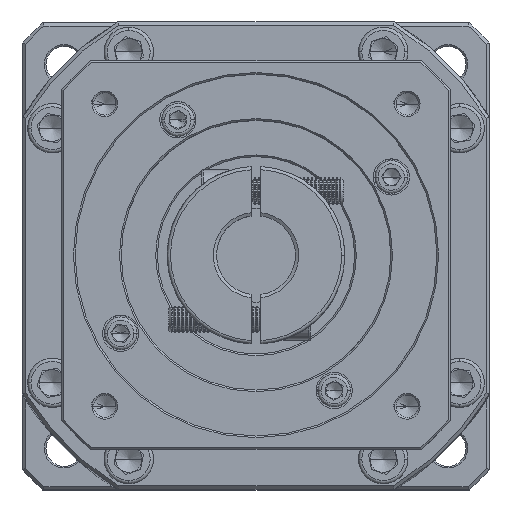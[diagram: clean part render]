
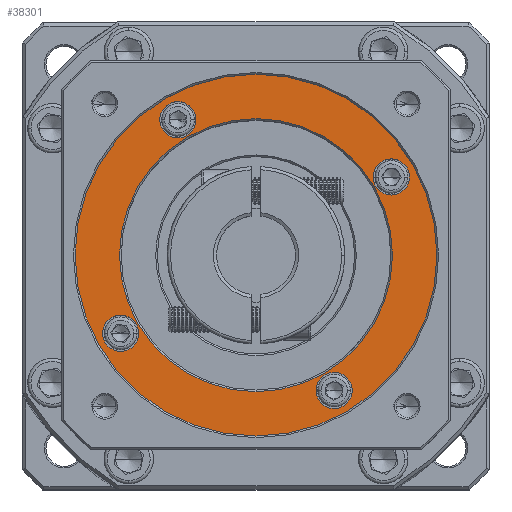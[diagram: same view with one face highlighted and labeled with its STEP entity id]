
A CAD part, top view. The second image highlights one B-rep face of the part: STEP entity #38301.
In plain terms, the highlighted planar face has unit normal (0, 0, 1).
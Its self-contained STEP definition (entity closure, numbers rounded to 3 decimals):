
#2128 = DIRECTION ( 'NONE',  ( 1., 0., 0. ) ) ;
#2868 = ORIENTED_EDGE ( 'NONE', *, *, #24350, .T. ) ;
#3402 = EDGE_CURVE ( 'NONE', #51906, #61925, #73611, .T. ) ;
#4488 = VERTEX_POINT ( 'NONE', #51540 ) ;
#4510 = CARTESIAN_POINT ( 'NONE',  ( -77.378, 45.355, -18.552 ) ) ;
#7046 = DIRECTION ( 'NONE',  ( 0., 0., -1. ) ) ;
#8082 = VERTEX_POINT ( 'NONE', #28455 ) ;
#9469 = CARTESIAN_POINT ( 'NONE',  ( -119.378, 127.627, -18.552 ) ) ;
#10491 = ORIENTED_EDGE ( 'NONE', *, *, #36805, .T. ) ;
#10521 = EDGE_LOOP ( 'NONE', ( #51077, #16425 ) ) ;
#12915 = CARTESIAN_POINT ( 'NONE',  ( -101.128, 86.491, -18.552 ) ) ;
#13134 = CIRCLE ( 'NONE', #54324, 5.5 ) ;
#13369 = DIRECTION ( 'NONE',  ( 0., -1., 0. ) ) ;
#15859 = CARTESIAN_POINT ( 'NONE',  ( -101.128, 44.991, -18.552 ) ) ;
#16425 = ORIENTED_EDGE ( 'NONE', *, *, #136670, .T. ) ;
#18628 = EDGE_LOOP ( 'NONE', ( #74055, #64421 ) ) ;
#18899 = DIRECTION ( 'NONE',  ( 1., 0., 0. ) ) ;
#19828 = CARTESIAN_POINT ( 'NONE',  ( -65.492, 110.241, -18.552 ) ) ;
#21457 = FACE_OUTER_BOUND ( 'NONE', #18628, .T. ) ;
#22613 = VERTEX_POINT ( 'NONE', #136711 ) ;
#22727 = EDGE_CURVE ( 'NONE', #113800, #96569, #123893, .T. ) ;
#22930 = ORIENTED_EDGE ( 'NONE', *, *, #22727, .T. ) ;
#23445 = CARTESIAN_POINT ( 'NONE',  ( -124.878, 127.627, -18.552 ) ) ;
#23494 = DIRECTION ( 'NONE',  ( 1., 0., 0. ) ) ;
#24350 = EDGE_CURVE ( 'NONE', #61925, #51906, #39424, .T. ) ;
#25119 = CARTESIAN_POINT ( 'NONE',  ( -101.128, 127.991, -18.552 ) ) ;
#26621 = CIRCLE ( 'NONE', #130605, 55. ) ;
#28026 = CARTESIAN_POINT ( 'NONE',  ( -101.128, 86.491, -18.552 ) ) ;
#28455 = CARTESIAN_POINT ( 'NONE',  ( -46.128, 86.491, -18.552 ) ) ;
#28847 = DIRECTION ( 'NONE',  ( 1., 0., 0. ) ) ;
#30738 = ORIENTED_EDGE ( 'NONE', *, *, #35238, .T. ) ;
#31418 = CIRCLE ( 'NONE', #40646, 5.5 ) ;
#31926 = CARTESIAN_POINT ( 'NONE',  ( -142.264, 62.741, -18.552 ) ) ;
#32660 = AXIS2_PLACEMENT_3D ( 'NONE', #108533, #44342, #120722 ) ;
#35238 = EDGE_CURVE ( 'NONE', #96569, #113800, #123601, .T. ) ;
#36625 = DIRECTION ( 'NONE',  ( 1., 0., 0. ) ) ;
#36765 = AXIS2_PLACEMENT_3D ( 'NONE', #73709, #128069, #18899 ) ;
#36805 = EDGE_CURVE ( 'NONE', #55093, #40737, #112615, .T. ) ;
#38249 = FACE_BOUND ( 'NONE', #94461, .T. ) ;
#38301 = ADVANCED_FACE ( 'NONE', ( #21457, #110377, #132148, #43251, #38249, #122119 ), #116278, .T. ) ;
#39424 = CIRCLE ( 'NONE', #67441, 5.5 ) ;
#39700 = VERTEX_POINT ( 'NONE', #71671 ) ;
#40646 = AXIS2_PLACEMENT_3D ( 'NONE', #133606, #7046, #71258 ) ;
#40737 = VERTEX_POINT ( 'NONE', #138322 ) ;
#42024 = AXIS2_PLACEMENT_3D ( 'NONE', #4510, #90210, #59290 ) ;
#43120 = CARTESIAN_POINT ( 'NONE',  ( -101.128, 86.491, -18.552 ) ) ;
#43251 = FACE_BOUND ( 'NONE', #10521, .T. ) ;
#43774 = VERTEX_POINT ( 'NONE', #65089 ) ;
#44342 = DIRECTION ( 'NONE',  ( 0., 0., -1. ) ) ;
#44879 = AXIS2_PLACEMENT_3D ( 'NONE', #28026, #103002, #60754 ) ;
#46980 = DIRECTION ( 'NONE',  ( 0., 0., 1. ) ) ;
#48004 = ORIENTED_EDGE ( 'NONE', *, *, #3402, .T. ) ;
#48206 = CIRCLE ( 'NONE', #32660, 5.5 ) ;
#48364 = CARTESIAN_POINT ( 'NONE',  ( -101.128, 86.491, -18.552 ) ) ;
#49115 = EDGE_LOOP ( 'NONE', ( #48004, #2868 ) ) ;
#49535 = CIRCLE ( 'NONE', #36765, 5.5 ) ;
#51077 = ORIENTED_EDGE ( 'NONE', *, *, #88224, .T. ) ;
#51540 = CARTESIAN_POINT ( 'NONE',  ( -82.878, 45.355, -18.552 ) ) ;
#51906 = VERTEX_POINT ( 'NONE', #103541 ) ;
#52829 = CIRCLE ( 'NONE', #42024, 5.5 ) ;
#53878 = DIRECTION ( 'NONE',  ( 1., 0., 0. ) ) ;
#54324 = AXIS2_PLACEMENT_3D ( 'NONE', #31926, #119109, #23494 ) ;
#55093 = VERTEX_POINT ( 'NONE', #9469 ) ;
#55258 = DIRECTION ( 'NONE',  ( 0., 0., -1. ) ) ;
#59290 = DIRECTION ( 'NONE',  ( 1., 0., 0. ) ) ;
#60754 = DIRECTION ( 'NONE',  ( 1., 0., 0. ) ) ;
#61145 = CARTESIAN_POINT ( 'NONE',  ( -59.992, 110.241, -18.552 ) ) ;
#61925 = VERTEX_POINT ( 'NONE', #19828 ) ;
#64421 = ORIENTED_EDGE ( 'NONE', *, *, #69705, .T. ) ;
#65089 = CARTESIAN_POINT ( 'NONE',  ( -156.128, 86.491, -18.552 ) ) ;
#66069 = DIRECTION ( 'NONE',  ( 1., 0., 0. ) ) ;
#67441 = AXIS2_PLACEMENT_3D ( 'NONE', #67731, #97724, #2128 ) ;
#67731 = CARTESIAN_POINT ( 'NONE',  ( -59.992, 110.241, -18.552 ) ) ;
#69705 = EDGE_CURVE ( 'NONE', #43774, #8082, #26621, .T. ) ;
#71258 = DIRECTION ( 'NONE',  ( 1., 0., 0. ) ) ;
#71671 = CARTESIAN_POINT ( 'NONE',  ( -71.878, 45.355, -18.552 ) ) ;
#73611 = CIRCLE ( 'NONE', #74936, 5.5 ) ;
#73709 = CARTESIAN_POINT ( 'NONE',  ( -77.378, 45.355, -18.552 ) ) ;
#74055 = ORIENTED_EDGE ( 'NONE', *, *, #117306, .T. ) ;
#74936 = AXIS2_PLACEMENT_3D ( 'NONE', #61145, #125407, #28847 ) ;
#75468 = DIRECTION ( 'NONE',  ( 0., 0., 1. ) ) ;
#84108 = ORIENTED_EDGE ( 'NONE', *, *, #84725, .T. ) ;
#84539 = CARTESIAN_POINT ( 'NONE',  ( -147.764, 62.741, -18.552 ) ) ;
#84725 = EDGE_CURVE ( 'NONE', #40737, #55093, #31418, .T. ) ;
#88224 = EDGE_CURVE ( 'NONE', #39700, #4488, #49535, .T. ) ;
#89735 = DIRECTION ( 'NONE',  ( 0., 0., -1. ) ) ;
#90210 = DIRECTION ( 'NONE',  ( 0., 0., -1. ) ) ;
#90722 = EDGE_CURVE ( 'NONE', #94165, #22613, #48206, .T. ) ;
#94165 = VERTEX_POINT ( 'NONE', #84539 ) ;
#94461 = EDGE_LOOP ( 'NONE', ( #10491, #84108 ) ) ;
#95900 = EDGE_LOOP ( 'NONE', ( #30738, #22930 ) ) ;
#96569 = VERTEX_POINT ( 'NONE', #15859 ) ;
#97347 = ORIENTED_EDGE ( 'NONE', *, *, #114262, .T. ) ;
#97724 = DIRECTION ( 'NONE',  ( 0., 0., -1. ) ) ;
#98026 = AXIS2_PLACEMENT_3D ( 'NONE', #12915, #89735, #13369 ) ;
#100473 = AXIS2_PLACEMENT_3D ( 'NONE', #109824, #131818, #120598 ) ;
#103002 = DIRECTION ( 'NONE',  ( 0., 0., 1. ) ) ;
#103541 = CARTESIAN_POINT ( 'NONE',  ( -54.492, 110.241, -18.552 ) ) ;
#103611 = AXIS2_PLACEMENT_3D ( 'NONE', #43120, #75468, #53878 ) ;
#104574 = CIRCLE ( 'NONE', #44879, 55. ) ;
#108533 = CARTESIAN_POINT ( 'NONE',  ( -142.264, 62.741, -18.552 ) ) ;
#109824 = CARTESIAN_POINT ( 'NONE',  ( -101.128, 86.491, -18.552 ) ) ;
#110377 = FACE_BOUND ( 'NONE', #95900, .T. ) ;
#111436 = EDGE_LOOP ( 'NONE', ( #97347, #114682 ) ) ;
#112615 = CIRCLE ( 'NONE', #137424, 5.5 ) ;
#113800 = VERTEX_POINT ( 'NONE', #25119 ) ;
#114262 = EDGE_CURVE ( 'NONE', #22613, #94165, #13134, .T. ) ;
#114682 = ORIENTED_EDGE ( 'NONE', *, *, #90722, .T. ) ;
#116278 = PLANE ( 'NONE',  #103611 ) ;
#117306 = EDGE_CURVE ( 'NONE', #8082, #43774, #104574, .T. ) ;
#119109 = DIRECTION ( 'NONE',  ( 0., 0., -1. ) ) ;
#120598 = DIRECTION ( 'NONE',  ( 0., -1., 0. ) ) ;
#120722 = DIRECTION ( 'NONE',  ( 1., 0., 0. ) ) ;
#122119 = FACE_BOUND ( 'NONE', #111436, .T. ) ;
#123601 = CIRCLE ( 'NONE', #100473, 41.5 ) ;
#123893 = CIRCLE ( 'NONE', #98026, 41.5 ) ;
#125407 = DIRECTION ( 'NONE',  ( 0., 0., -1. ) ) ;
#128069 = DIRECTION ( 'NONE',  ( 0., 0., -1. ) ) ;
#130605 = AXIS2_PLACEMENT_3D ( 'NONE', #48364, #46980, #36625 ) ;
#131818 = DIRECTION ( 'NONE',  ( 0., 0., -1. ) ) ;
#132148 = FACE_BOUND ( 'NONE', #49115, .T. ) ;
#133606 = CARTESIAN_POINT ( 'NONE',  ( -124.878, 127.627, -18.552 ) ) ;
#136670 = EDGE_CURVE ( 'NONE', #4488, #39700, #52829, .T. ) ;
#136711 = CARTESIAN_POINT ( 'NONE',  ( -136.764, 62.741, -18.552 ) ) ;
#137424 = AXIS2_PLACEMENT_3D ( 'NONE', #23445, #55258, #66069 ) ;
#138322 = CARTESIAN_POINT ( 'NONE',  ( -130.378, 127.627, -18.552 ) ) ;
